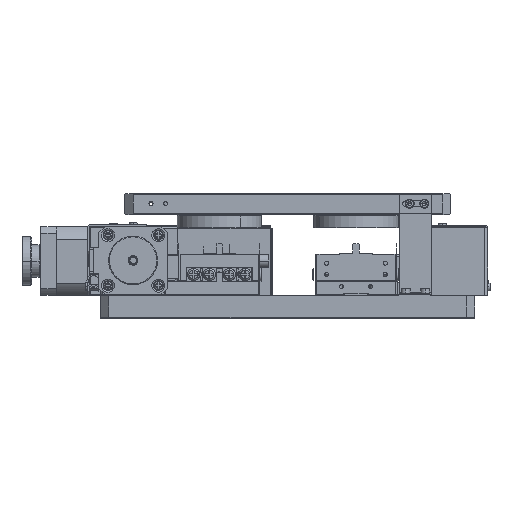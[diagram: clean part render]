
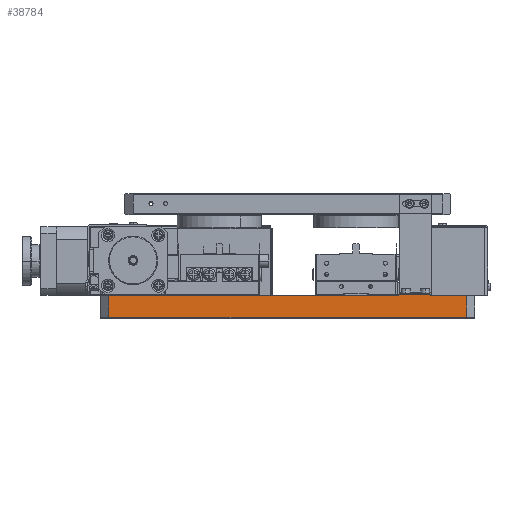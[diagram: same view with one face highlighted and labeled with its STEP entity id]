
A CAD part, top view. The second image highlights one B-rep face of the part: STEP entity #38784.
In plain terms, the highlighted planar face has unit normal (0, 0, 1).
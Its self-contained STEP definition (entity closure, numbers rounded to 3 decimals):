
#1435 = CARTESIAN_POINT ( 'NONE',  ( -115., 14., 115. ) ) ;
#5648 = EDGE_CURVE ( 'NONE', #45504, #81190, #33577, .T. ) ;
#6441 = VERTEX_POINT ( 'NONE', #35681 ) ;
#7745 = ORIENTED_EDGE ( 'NONE', *, *, #5648, .T. ) ;
#8873 = DIRECTION ( 'NONE',  ( 0., 0., -1. ) ) ;
#11352 = LINE ( 'NONE', #1435, #51586 ) ;
#11962 = EDGE_CURVE ( 'NONE', #45504, #50122, #65500, .T. ) ;
#17092 = VECTOR ( 'NONE', #26177, 1000. ) ;
#18085 = CARTESIAN_POINT ( 'NONE',  ( 68., 13.5, 115. ) ) ;
#18177 = CARTESIAN_POINT ( 'NONE',  ( 68., -36.859, 115. ) ) ;
#22389 = CARTESIAN_POINT ( 'NONE',  ( -115., 14., 115. ) ) ;
#24211 = VECTOR ( 'NONE', #71612, 1000. ) ;
#24775 = LINE ( 'NONE', #83767, #55746 ) ;
#25718 = CARTESIAN_POINT ( 'NONE',  ( 88., 13.5, 115. ) ) ;
#26177 = DIRECTION ( 'NONE',  ( 1., 0., 0. ) ) ;
#28560 = CARTESIAN_POINT ( 'NONE',  ( 110., 13.5, 115. ) ) ;
#29026 = DIRECTION ( 'NONE',  ( 0., 1., 0. ) ) ;
#29494 = CARTESIAN_POINT ( 'NONE',  ( 110., 14., 115. ) ) ;
#29647 = EDGE_LOOP ( 'NONE', ( #81389, #38055, #57108, #70954, #37925, #30858, #68947, #7745 ) ) ;
#30858 = ORIENTED_EDGE ( 'NONE', *, *, #66433, .F. ) ;
#31122 = DIRECTION ( 'NONE',  ( 0., 1., 0. ) ) ;
#33577 = LINE ( 'NONE', #45211, #44914 ) ;
#35681 = CARTESIAN_POINT ( 'NONE',  ( 68., 14., 115. ) ) ;
#36020 = VECTOR ( 'NONE', #56613, 1000. ) ;
#36078 = VERTEX_POINT ( 'NONE', #43459 ) ;
#37925 = ORIENTED_EDGE ( 'NONE', *, *, #55957, .F. ) ;
#38055 = ORIENTED_EDGE ( 'NONE', *, *, #64973, .T. ) ;
#38784 = ADVANCED_FACE ( 'NONE', ( #85323 ), #61043, .F. ) ;
#39151 = CARTESIAN_POINT ( 'NONE',  ( -110., 13.5, 115. ) ) ;
#42793 = VERTEX_POINT ( 'NONE', #25718 ) ;
#43459 = CARTESIAN_POINT ( 'NONE',  ( 110., 0., 115. ) ) ;
#44914 = VECTOR ( 'NONE', #57917, 1000. ) ;
#45211 = CARTESIAN_POINT ( 'NONE',  ( -110., 14., 115. ) ) ;
#45504 = VERTEX_POINT ( 'NONE', #39151 ) ;
#50122 = VERTEX_POINT ( 'NONE', #18085 ) ;
#51586 = VECTOR ( 'NONE', #80581, 1000. ) ;
#53376 = VECTOR ( 'NONE', #31122, 1000. ) ;
#55708 = EDGE_CURVE ( 'NONE', #42793, #78582, #24775, .T. ) ;
#55746 = VECTOR ( 'NONE', #57655, 1000. ) ;
#55957 = EDGE_CURVE ( 'NONE', #6441, #63430, #11352, .T. ) ;
#56613 = DIRECTION ( 'NONE',  ( 0., 1., 0. ) ) ;
#57108 = ORIENTED_EDGE ( 'NONE', *, *, #55708, .F. ) ;
#57655 = DIRECTION ( 'NONE',  ( 1., 0., 0. ) ) ;
#57917 = DIRECTION ( 'NONE',  ( 0., -1., 0. ) ) ;
#60360 = CARTESIAN_POINT ( 'NONE',  ( -110., 0., 115. ) ) ;
#61043 = PLANE ( 'NONE',  #72754 ) ;
#61345 = LINE ( 'NONE', #84210, #24211 ) ;
#62448 = CARTESIAN_POINT ( 'NONE',  ( 88., 14., 115. ) ) ;
#63430 = VERTEX_POINT ( 'NONE', #62448 ) ;
#64895 = CARTESIAN_POINT ( 'NONE',  ( -115., 0., 115. ) ) ;
#64973 = EDGE_CURVE ( 'NONE', #36078, #78582, #66944, .T. ) ;
#65500 = LINE ( 'NONE', #78583, #17092 ) ;
#66433 = EDGE_CURVE ( 'NONE', #50122, #6441, #81132, .T. ) ;
#66944 = LINE ( 'NONE', #29494, #36020 ) ;
#68947 = ORIENTED_EDGE ( 'NONE', *, *, #11962, .F. ) ;
#70954 = ORIENTED_EDGE ( 'NONE', *, *, #84269, .T. ) ;
#71612 = DIRECTION ( 'NONE',  ( 0., 1., 0. ) ) ;
#71842 = DIRECTION ( 'NONE',  ( 1., 0., 0. ) ) ;
#72754 = AXIS2_PLACEMENT_3D ( 'NONE', #22389, #8873, #29026 ) ;
#74789 = EDGE_CURVE ( 'NONE', #81190, #36078, #80815, .T. ) ;
#78582 = VERTEX_POINT ( 'NONE', #28560 ) ;
#78583 = CARTESIAN_POINT ( 'NONE',  ( -115., 13.5, 115. ) ) ;
#80581 = DIRECTION ( 'NONE',  ( 1., 0., 0. ) ) ;
#80815 = LINE ( 'NONE', #64895, #83930 ) ;
#81132 = LINE ( 'NONE', #18177, #53376 ) ;
#81190 = VERTEX_POINT ( 'NONE', #60360 ) ;
#81389 = ORIENTED_EDGE ( 'NONE', *, *, #74789, .T. ) ;
#83767 = CARTESIAN_POINT ( 'NONE',  ( -115., 13.5, 115. ) ) ;
#83930 = VECTOR ( 'NONE', #71842, 1000. ) ;
#84210 = CARTESIAN_POINT ( 'NONE',  ( 88., 13.5, 115. ) ) ;
#84269 = EDGE_CURVE ( 'NONE', #42793, #63430, #61345, .T. ) ;
#85323 = FACE_OUTER_BOUND ( 'NONE', #29647, .T. ) ;
